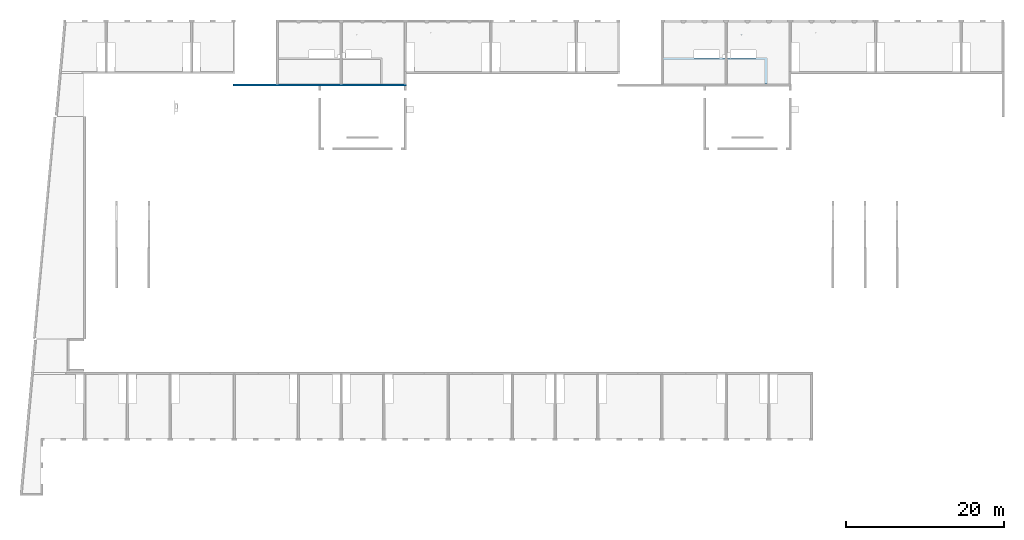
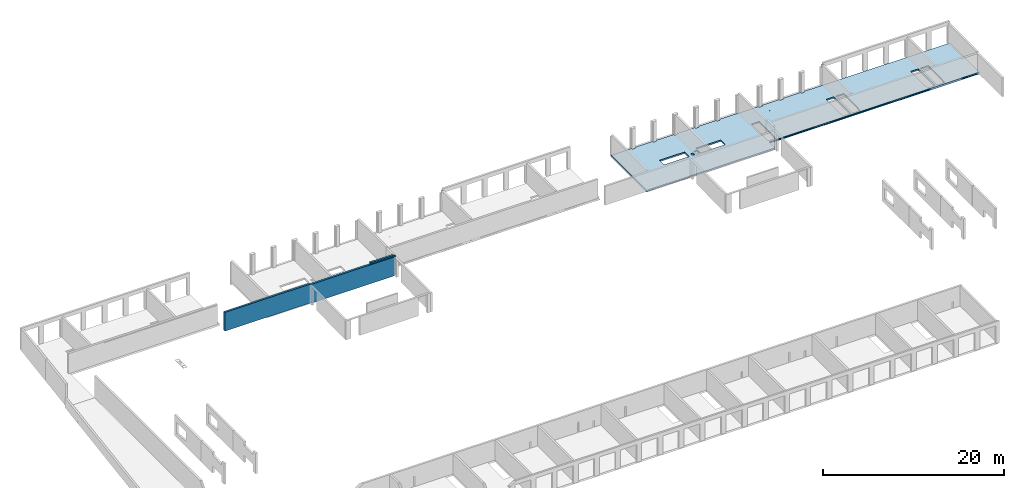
# One storey, part 11 of 12: 1 slab, 1 wall.
"""IFC2X3 building model written with IfcOpenShell, lengths in millimetres."""

from ifc_helpers import new_model, entity, si_unit, converted_unit, derived_unit, direction, frame, origin, place, context, subcontext, project, spatial, faceted_brep, material, layer, layer_set, type_object, element, save


model = new_model("IFC2X3")

# Units and contexts
model_context = context("Model", 3, precision=0.01, world=origin(), true_north=direction((6.12303176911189e-17, 1.0)))
body_context = subcontext(model_context, "Body", "Model", "MODEL_VIEW")
ifc_project = project(units=[si_unit("LENGTHUNIT", "METRE", prefix="MILLI"), si_unit("AREAUNIT", "SQUARE_METRE"), si_unit("VOLUMEUNIT", "CUBIC_METRE"), converted_unit("PLANEANGLEUNIT", "DEGREE", entity("IfcRatioMeasure", 0.0174532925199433), si_unit("PLANEANGLEUNIT", "RADIAN"), dimensions=[0, 0, 0, 0, 0, 0, 0]), si_unit("MASSUNIT", "GRAM", prefix="KILO"), derived_unit("MASSDENSITYUNIT", [(si_unit("MASSUNIT", "GRAM", prefix="KILO"), 1), (si_unit("LENGTHUNIT", "METRE"), -3)]), si_unit("TIMEUNIT", "SECOND"), si_unit("FREQUENCYUNIT", "HERTZ"), si_unit("THERMODYNAMICTEMPERATUREUNIT", "DEGREE_CELSIUS"), derived_unit("THERMALTRANSMITTANCEUNIT", [(si_unit("MASSUNIT", "GRAM", prefix="KILO"), 1), (si_unit("THERMODYNAMICTEMPERATUREUNIT", "KELVIN"), -1), (si_unit("TIMEUNIT", "SECOND"), -3)]), derived_unit("VOLUMETRICFLOWRATEUNIT", [(si_unit("LENGTHUNIT", "METRE"), 3), (si_unit("TIMEUNIT", "SECOND"), -1)]), si_unit("ELECTRICCURRENTUNIT", "AMPERE"), si_unit("ELECTRICVOLTAGEUNIT", "VOLT"), si_unit("POWERUNIT", "WATT"), si_unit("FORCEUNIT", "NEWTON", prefix="KILO"), si_unit("ILLUMINANCEUNIT", "LUX"), si_unit("LUMINOUSFLUXUNIT", "LUMEN"), si_unit("LUMINOUSINTENSITYUNIT", "CANDELA"), derived_unit("USERDEFINED", [(si_unit("MASSUNIT", "GRAM", prefix="KILO"), -1), (si_unit("LENGTHUNIT", "METRE"), -2), (si_unit("TIMEUNIT", "SECOND"), 3), (si_unit("LUMINOUSFLUXUNIT", "LUMEN"), 1)]), derived_unit("LINEARVELOCITYUNIT", [(si_unit("LENGTHUNIT", "METRE"), 1), (si_unit("TIMEUNIT", "SECOND"), -1)]), si_unit("PRESSUREUNIT", "PASCAL"), derived_unit("USERDEFINED", [(si_unit("LENGTHUNIT", "METRE"), -2), (si_unit("MASSUNIT", "GRAM", prefix="KILO"), 1), (si_unit("TIMEUNIT", "SECOND"), -2)])], contexts=[model_context])

# Site, building, storey
site_placement = place(None, origin())
site = spatial("IfcSite", under=ifc_project, at=site_placement, Name="Default", CompositionType="ELEMENT")
building_placement = place(site_placement, origin())
building = spatial("IfcBuilding", under=site, at=building_placement, Name="niet gebruiken", CompositionType="ELEMENT")
storey_placement = place(building_placement, frame((0.0, 0.0, 6660.0)))
storey = spatial("IfcBuildingStorey", under=building, at=storey_placement, Name="02 tweede verdieping", CompositionType="ELEMENT", Elevation=6660.00000000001)

# Slab
slab_placement = place(storey_placement, origin())
element("IfcSlab", 1, at=slab_placement, inside=storey, Name="Floor:NLRS_23.21_FL_breedplaat d=70/250_schil apart_gen", ObjectType="Floor:NLRS_23.21_FL_breedplaat d=70/250_schil apart_gen", PredefinedType="FLOOR", context=body_context, shape_type="Brep", body=[
    faceted_brep([(89205.0, 52846.0, -340.0), (89205.0, 48826.0, -340.0), (89225.0, 48826.0, -340.0), (89225.0, 48476.0, -340.0), (89575.0, 48476.0, -340.0), (89575.0, 48456.0, -340.0), (89675.0, 48456.0, -340.0), (89675.0, 48476.0, -340.0), (92875.0, 48476.0, -340.0), (92875.0, 48456.0, -340.0), (94255.0, 48456.0, -340.0), (94255.0, 45156.0, -340.0), (94045.0, 45156.0, -340.0), (94045.0, 48246.0, -340.0), (81130.0, 48246.0, -340.0), (81130.0, 45156.0, -340.0), (80900.0, 45156.0, -340.0), (80900.0, 53006.0, -340.0), (81130.0, 53006.0, -340.0), (81130.0, 48456.0, -340.0), (85055.0, 48456.0, -340.0), (85055.0, 48476.0, -340.0), (88255.0, 48476.0, -340.0), (88255.0, 48456.0, -340.0), (88625.0, 48456.0, -340.0), (88625.0, 48476.0, -340.0), (88975.0, 48476.0, -340.0), (88975.0, 48826.0, -340.0), (88995.0, 48826.0, -340.0), (88995.0, 52846.0, -340.0), (124200.0, 53006.0, -340.0), (123970.0, 52986.0, -340.0), (118905.0, 52986.0, -340.0), (118695.0, 52986.0, -340.0), (107980.0, 53006.0, -340.0), (123970.0, 46726.0, -340.0), (124200.0, 46496.0, -340.0), (123950.0, 46496.0, -340.0), (119925.0, 46726.0, -340.0), (117675.0, 46726.0, -340.0), (109125.0, 46726.0, -340.0), (97325.0, 46496.0, -340.0), (106875.0, 46726.0, -340.0), (98325.0, 46726.0, -340.0), (98295.0, 46746.0, -340.0), (97325.0, 46746.0, -340.0), (97095.0, 45156.0, -340.0), (97325.0, 45156.0, -340.0), (97305.0, 50426.0, -340.0), (97095.0, 53006.0, -340.0), (97200.0, 53006.0, -340.0), (97305.0, 53006.0, -340.0), (97325.0, 50426.0, -340.0), (98325.0, 47326.0, -340.0), (98295.0, 47326.0, -340.0), (107875.0, 46746.0, -340.0), (106905.0, 46746.0, -340.0), (106875.0, 47326.0, -340.0), (106905.0, 47326.0, -340.0), (108125.0, 46746.0, -340.0), (108125.0, 47146.0, -340.0), (108125.0, 47326.0, -340.0), (107875.0, 50426.0, -340.0), (107895.0, 50426.0, -340.0), (108105.0, 50426.0, -340.0), (108105.0, 52986.0, -340.0), (107895.0, 53006.0, -340.0), (108125.0, 50426.0, -340.0), (109095.0, 46746.0, -340.0), (109095.0, 47146.0, -340.0), (109125.0, 47326.0, -340.0), (109095.0, 47326.0, -340.0), (118675.0, 46746.0, -340.0), (117705.0, 46746.0, -340.0), (117675.0, 47326.0, -340.0), (117705.0, 47326.0, -340.0), (118925.0, 46746.0, -340.0), (118905.0, 50426.0, -340.0), (118695.0, 50426.0, -340.0), (118675.0, 50426.0, -340.0), (118925.0, 50426.0, -340.0), (119895.0, 46746.0, -340.0), (119925.0, 47326.0, -340.0), (119895.0, 47326.0, -340.0), (117860.0, 46516.0, -300.0), (97305.0, 46516.0, -300.0), (97305.0, 46056.0, -300.0), (97325.0, 46056.0, -300.0), (97325.0, 46496.0, -300.0), (117860.0, 46496.0, -300.0), (123970.0, 46496.0, -300.0), (123970.0, 46516.0, -300.0), (121950.0, 46516.0, -300.0), (121950.0, 46496.0, -300.0), (97325.0, 46496.0, -230.0), (97325.0, 46056.0, -230.0), (97305.0, 46056.0, -230.0), (97305.0, 46516.0, -230.0), (117860.0, 46516.0, -230.0), (117860.0, 46496.0, -230.0), (123970.0, 46516.0, -230.0), (123970.0, 46496.0, -230.0), (121950.0, 46496.0, -230.0), (121950.0, 46516.0, -230.0), (124200.0, 46496.0, -90.0), (124200.0, 46746.0, -90.0), (121930.0, 46496.0, -90.0), (119895.0, 46746.0, -90.0), (119925.0, 47326.0, -90.0), (117880.0, 46496.0, -90.0), (118925.0, 46746.0, -90.0), (118675.0, 46746.0, -90.0), (117880.0, 46746.0, -90.0), (117705.0, 46746.0, -90.0), (117675.0, 47326.0, -90.0), (109095.0, 46746.0, -90.0), (108125.0, 46746.0, -90.0), (108125.0, 47146.0, -90.0), (107875.0, 46746.0, -90.0), (97325.0, 46496.0, -90.0), (106905.0, 46746.0, -90.0), (119925.0, 50426.0, -90.0), (118925.0, 50426.0, -90.0), (119895.0, 47326.0, -90.0), (117705.0, 47326.0, -90.0), (109125.0, 47326.0, -90.0), (117675.0, 50426.0, -90.0), (109095.0, 47146.0, -90.0), (118675.0, 50426.0, -90.0), (109095.0, 47326.0, -90.0), (107875.0, 50426.0, -90.0), (108125.0, 47326.0, -90.0), (108125.0, 50426.0, -90.0), (100418.749999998, 51623.5240473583, -90.0), (98325.0, 47326.0, -90.0), (106875.0, 47326.0, -90.0), (106875.0, 50426.0, -90.0), (106905.0, 47326.0, -90.0), (97075.0, 45156.0, -90.0), (97325.0, 46056.0, -90.0), (97325.0, 46746.0, -90.0), (98295.0, 46746.0, -90.0), (92875.0, 48476.0, -90.0), (98295.0, 47326.0, -90.0), (88975.0, 48476.0, -90.0), (80900.0, 45156.0, -90.0), (97325.0, 45156.0, -90.0), (88255.0, 48476.0, -90.0), (88625.0, 48476.0, -90.0), (88625.0, 48826.0, -90.0), (85055.0, 48476.0, -90.0), (89225.0, 48476.0, -90.0), (85055.0, 49476.0, -90.0), (89575.0, 49083.0, -90.0), (89675.0, 48476.0, -90.0), (89675.0, 49476.0, -90.0), (89575.0, 48476.0, -90.0), (97325.0, 50426.0, -90.0), (92875.0, 49476.0, -90.0), (97200.0, 53006.0, -90.0), (98325.0, 50426.0, -90.0), (91068.7499999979, 51373.5240473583, -90.0), (88895.0, 52846.0, -90.0), (88255.0, 49476.0, -90.0), (89225.0, 49083.0, -90.0), (88975.0, 48826.0, -90.0), (86605.0, 52846.0, -90.0), (94705.0, 52846.0, -90.0), (80900.0, 53006.0, -90.0), (107980.0, 53006.0, -90.0), (109125.0, 50426.0, -90.0), (102805.0, 52846.0, -90.0), (124200.0, 53006.0, -90.0), (102395.0, 52846.0, -90.0), (100437.499999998, 51656.0, -90.0), (100433.787806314, 51649.570291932, -90.0), (100409.374999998, 51623.5240473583, -90.0), (100105.0, 52846.0, -90.0), (100381.249999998, 51688.4759526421, -90.0), (100390.624999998, 51688.4759526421, -90.0), (100418.749999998, 51688.4759526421, -90.0), (100423.437499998, 51680.3569644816, -90.0), (99695.0, 52846.0, -90.0), (100362.499999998, 51656.0, -90.0), (100366.212193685, 51662.4297080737, -90.0), (100381.249999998, 51623.5240473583, -90.0), (100376.562499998, 51631.6430355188, -90.0), (102805.0, 53006.0, -90.0), (105095.0, 52846.0, -90.0), (105095.0, 53006.0, -90.0), (105505.0, 52846.0, -90.0), (105505.0, 53006.0, -90.0), (102395.0, 53006.0, -90.0), (100105.0, 53006.0, -90.0), (99695.0, 53006.0, -90.0), (91087.4999999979, 51406.0, -90.0), (91083.7878063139, 51399.5702919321, -90.0), (94295.0, 52846.0, -90.0), (92005.0, 52846.0, -90.0), (91068.7499999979, 51438.4759526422, -90.0), (91073.4374999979, 51430.3569644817, -90.0), (94295.0, 53006.0, -90.0), (91595.0, 52846.0, -90.0), (89305.0, 52846.0, -90.0), (91012.4999999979, 51406.0, -90.0), (91031.2499999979, 51438.4759526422, -90.0), (91040.6249999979, 51438.4759526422, -90.0), (88895.0, 53006.0, -90.0), (91016.2121936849, 51412.4297080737, -90.0), (86195.0, 52846.0, -90.0), (91595.0, 53006.0, -90.0), (91059.3749999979, 51373.5240473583, -90.0), (92005.0, 53006.0, -90.0), (86605.0, 53006.0, -90.0), (89305.0, 53006.0, -90.0), (83495.0, 52846.0, -90.0), (83905.0, 52846.0, -90.0), (86195.0, 53006.0, -90.0), (83495.0, 53006.0, -90.0), (83905.0, 53006.0, -90.0), (94705.0, 53006.0, -90.0), (91031.2499999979, 51373.5240473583, -90.0), (91026.5624999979, 51381.6430355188, -90.0), (100428.124999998, 51639.7620236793, -90.0), (100423.437499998, 51631.6430355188, -90.0), (100400.0, 51623.5240473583, -90.0), (100390.624999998, 51623.5240473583, -90.0), (100400.0, 51688.4759526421, -90.0), (100409.374999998, 51688.4759526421, -90.0), (100428.124999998, 51672.2379763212, -90.0), (100432.812499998, 51664.1189881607, -90.0), (100369.924387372, 51668.8594161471, -90.0), (100375.587193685, 51678.6676843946, -90.0), (100371.874999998, 51639.7620236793, -90.0), (100367.187499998, 51647.8810118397, -90.0), (91078.1249999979, 51389.7620236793, -90.0), (91073.4374999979, 51381.6430355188, -90.0), (91078.1249999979, 51422.2379763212, -90.0), (91082.8124999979, 51414.1189881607, -90.0), (91050.0, 51438.4759526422, -90.0), (91059.3749999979, 51438.4759526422, -90.0), (91019.9243873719, 51418.8594161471, -90.0), (91025.5871936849, 51428.6676843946, -90.0), (91050.0, 51373.5240473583, -90.0), (91040.6249999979, 51373.5240473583, -90.0), (91021.8749999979, 51389.7620236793, -90.0), (91017.1874999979, 51397.8810118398, -90.0), (97325.0, 45156.0, -300.0), (97325.0, 45156.0, -230.0), (97325.0, 45156.0, -140.0), (81130.0, 45156.0, -300.0), (81130.0, 45156.0, -270.0), (86525.0, 45156.0, -270.0), (94045.0, 45156.0, -270.0), (94255.0, 45156.0, -270.0), (97095.0, 45156.0, -270.0), (81130.0, 53006.0, -270.0), (83495.0, 53006.0, -270.0), (86195.0, 53006.0, -270.0), (83905.0, 53006.0, -270.0), (88895.0, 53006.0, -270.0), (86605.0, 53006.0, -270.0), (91595.0, 53006.0, -270.0), (89305.0, 53006.0, -270.0), (94295.0, 53006.0, -270.0), (92005.0, 53006.0, -270.0), (97095.0, 53006.0, -270.0), (94705.0, 53006.0, -270.0), (99695.0, 53006.0, -270.0), (97305.0, 53006.0, -270.0), (102395.0, 53006.0, -270.0), (100105.0, 53006.0, -270.0), (105095.0, 53006.0, -270.0), (102805.0, 53006.0, -270.0), (107895.0, 53006.0, -270.0), (105505.0, 53006.0, -270.0), (97325.0, 50426.0, -270.0), (83495.0, 52846.0, -270.0), (83905.0, 52846.0, -270.0), (86605.0, 52846.0, -270.0), (86195.0, 52846.0, -270.0), (89205.0, 52846.0, -270.0), (88995.0, 52846.0, -270.0), (88895.0, 52846.0, -270.0), (89305.0, 52846.0, -270.0), (92005.0, 52846.0, -270.0), (91595.0, 52846.0, -270.0), (94705.0, 52846.0, -270.0), (94295.0, 52846.0, -270.0), (100105.0, 52846.0, -270.0), (99695.0, 52846.0, -270.0), (102805.0, 52846.0, -270.0), (102395.0, 52846.0, -270.0), (105505.0, 52846.0, -270.0), (105095.0, 52846.0, -270.0), (124200.0, 46496.0, -300.0), (85055.0, 49476.0, -270.0), (88255.0, 49476.0, -270.0), (89675.0, 49476.0, -270.0), (92875.0, 49476.0, -270.0), (88255.0, 48476.0, -270.0), (85055.0, 48476.0, -270.0), (92875.0, 48476.0, -270.0), (89675.0, 48476.0, -270.0), (88625.0, 48476.0, -270.0), (89575.0, 48476.0, -270.0), (107875.0, 50426.0, -270.0), (108125.0, 50426.0, -270.0), (118675.0, 50426.0, -270.0), (118925.0, 50426.0, -270.0), (98325.0, 50426.0, -270.0), (109125.0, 50426.0, -270.0), (106875.0, 50426.0, -270.0), (119925.0, 50426.0, -270.0), (117675.0, 50426.0, -270.0), (98325.0, 47326.0, -270.0), (109125.0, 47326.0, -270.0), (106875.0, 47326.0, -270.0), (119925.0, 47326.0, -270.0), (117675.0, 47326.0, -270.0), (88975.0, 48826.0, -270.0), (88625.0, 48826.0, -270.0), (100418.749999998, 51623.5240473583, -270.0), (100423.437499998, 51631.6430355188, -270.0), (100409.374999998, 51623.5240473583, -270.0), (100428.124999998, 51639.7620236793, -270.0), (100432.812499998, 51647.8810118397, -270.0), (100437.499999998, 51656.0, -270.0), (100433.787806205, 51662.4297082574, -270.0), (100430.075612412, 51668.8594165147, -270.0), (100424.412806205, 51678.6676845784, -270.0), (100418.749999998, 51688.4759526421, -270.0), (100409.374999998, 51688.4759526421, -270.0), (100400.0, 51688.4759526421, -270.0), (100390.624999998, 51688.4759526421, -270.0), (100381.249999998, 51688.4759526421, -270.0), (100376.562499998, 51680.3569644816, -270.0), (100371.874999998, 51672.2379763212, -270.0), (100367.187499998, 51664.1189881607, -270.0), (100362.499999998, 51656.0, -270.0), (100366.212193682, 51649.5702919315, -270.0), (100369.924387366, 51643.1405838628, -270.0), (100375.587193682, 51633.3323156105, -270.0), (100381.249999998, 51623.5240473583, -270.0), (100390.624999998, 51623.5240473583, -270.0), (100400.0, 51623.5240473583, -270.0), (97305.0, 50426.0, -270.0), (107895.0, 50426.0, -270.0), (98325.0, 46726.0, -270.0), (106875.0, 46726.0, -270.0), (108105.0, 50426.0, -270.0), (108105.0, 52986.0, -270.0), (118695.0, 52986.0, -270.0), (118695.0, 50426.0, -270.0), (117675.0, 46726.0, -270.0), (109125.0, 46726.0, -270.0), (118905.0, 50426.0, -270.0), (118905.0, 52986.0, -270.0), (123970.0, 52986.0, -270.0), (123970.0, 46726.0, -270.0), (119925.0, 46726.0, -270.0), (94255.0, 48456.0, -270.0), (92875.0, 48456.0, -270.0), (91087.4999999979, 51406.0, -270.0), (91082.8124999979, 51397.8810118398, -270.0), (91078.1249999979, 51389.7620236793, -270.0), (91073.4374999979, 51381.6430355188, -270.0), (91068.7499999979, 51373.5240473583, -270.0), (91059.3749999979, 51373.5240473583, -270.0), (91050.0, 51373.5240473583, -270.0), (91040.6249999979, 51373.5240473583, -270.0), (91031.2499999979, 51373.5240473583, -270.0), (91025.5871936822, 51383.3323156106, -270.0), (91019.9243873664, 51393.1405838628, -270.0), (91016.2121936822, 51399.5702919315, -270.0), (91012.4999999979, 51406.0, -270.0), (89225.0, 49083.0, -270.0), (89575.0, 49083.0, -270.0), (89675.0, 48456.0, -270.0), (89575.0, 48456.0, -270.0), (89205.0, 48826.0, -270.0), (89225.0, 48826.0, -270.0), (91017.1874999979, 51414.1189881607, -270.0), (91021.8749999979, 51422.2379763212, -270.0), (91026.5624999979, 51430.3569644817, -270.0), (91031.2499999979, 51438.4759526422, -270.0), (91068.7499999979, 51438.4759526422, -270.0), (91059.3749999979, 51438.4759526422, -270.0), (91050.0, 51438.4759526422, -270.0), (91040.6249999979, 51438.4759526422, -270.0), (91083.7878062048, 51412.4297082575, -270.0), (91080.0756124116, 51418.8594165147, -270.0), (91074.4128062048, 51428.6676845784, -270.0), (81130.0, 48246.0, -270.0), (94045.0, 48246.0, -270.0), (88255.0, 48456.0, -270.0), (85055.0, 48456.0, -270.0), (81130.0, 48456.0, -270.0), (88995.0, 48826.0, -270.0), (88625.0, 48456.0, -270.0)], [[[0, 1, 2, 3, 4, 5, 6, 7, 8, 9, 10, 11, 12, 13, 14, 15, 16, 17, 18, 19, 20, 21, 22, 23, 24, 25, 26, 27, 28, 29]], [[0, 1, 29]], [[29, 1, 28]], [[28, 1, 26]], [[1, 3, 26]], [[2, 3, 1]], [[26, 3, 5]], [[5, 3, 4]], [[26, 5, 24]], [[13, 24, 5]], [[13, 5, 6]], [[9, 13, 6]], [[8, 9, 6]], [[7, 8, 6]], [[13, 9, 10]], [[10, 11, 13]], [[12, 13, 11]], [[24, 13, 23]], [[23, 13, 14]], [[23, 14, 20]], [[14, 19, 20]], [[19, 14, 16]], [[15, 16, 14]], [[19, 16, 17]], [[18, 19, 17]], [[22, 23, 20]], [[20, 21, 22]], [[24, 25, 26]], [[27, 28, 26]], [[30, 31, 32]], [[32, 33, 30]], [[30, 33, 34]], [[31, 30, 35]], [[36, 35, 30]], [[35, 36, 37]], [[35, 37, 38]], [[39, 38, 37]], [[40, 39, 37]], [[40, 37, 41]], [[41, 42, 40]], [[42, 41, 43]], [[44, 43, 41]], [[41, 45, 44]], [[45, 41, 46]], [[47, 46, 41]], [[45, 46, 48]], [[49, 48, 46]], [[49, 50, 48]], [[51, 48, 50]], [[45, 48, 52]], [[53, 43, 44]], [[44, 54, 53]], [[40, 42, 55]], [[56, 55, 42]], [[57, 56, 42]], [[56, 57, 58]], [[40, 55, 59]], [[60, 59, 55]], [[60, 55, 61]], [[61, 55, 62]], [[63, 61, 62]], [[63, 64, 61]], [[64, 63, 65]], [[65, 63, 66]], [[66, 34, 65]], [[65, 34, 33]], [[67, 61, 64]], [[68, 40, 59]], [[69, 40, 68]], [[70, 40, 69]], [[70, 69, 71]], [[39, 72, 38]], [[73, 72, 39]], [[39, 74, 73]], [[74, 75, 73]], [[76, 38, 72]], [[76, 72, 77]], [[78, 77, 72]], [[72, 79, 78]], [[33, 77, 78]], [[32, 77, 33]], [[77, 80, 76]], [[76, 81, 38]], [[82, 38, 81]], [[81, 83, 82]], [[84, 85, 86, 87, 88, 89]], [[90, 91, 92, 93]], [[94, 95, 96, 97, 98, 99]], [[100, 101, 102, 103]], [[104, 105, 106]], [[107, 106, 108]], [[109, 107, 110]], [[106, 107, 109]], [[109, 110, 111]], [[109, 112, 113]], [[112, 109, 111]], [[114, 115, 113]], [[109, 113, 115]], [[116, 109, 115]], [[117, 118, 116]], [[118, 119, 109]], [[118, 109, 116]], [[118, 120, 119]], [[121, 108, 106]], [[110, 122, 111]], [[123, 107, 108]], [[124, 114, 113]], [[125, 114, 126]], [[125, 127, 115]], [[125, 115, 114]], [[122, 128, 111]], [[127, 125, 129]], [[130, 131, 132]], [[130, 118, 131]], [[133, 134, 135]], [[133, 135, 136]], [[135, 120, 137]], [[118, 117, 131]], [[121, 106, 105]], [[120, 135, 134]], [[138, 139, 119]], [[140, 119, 141]], [[119, 142, 138]], [[141, 134, 143]], [[134, 141, 120]], [[142, 119, 140]], [[144, 145, 138]], [[138, 146, 139]], [[147, 148, 149]], [[144, 148, 145]], [[147, 150, 145]], [[148, 147, 145]], [[138, 151, 144]], [[145, 150, 152]], [[119, 120, 141]], [[153, 154, 155]], [[142, 154, 138]], [[154, 153, 156]], [[157, 158, 142]], [[159, 157, 160]], [[161, 155, 158]], [[155, 162, 163]], [[142, 140, 157]], [[153, 155, 164]], [[156, 151, 138]], [[163, 147, 149]], [[164, 163, 149]], [[164, 165, 151]], [[166, 152, 163]], [[164, 155, 163]], [[149, 165, 164]], [[144, 151, 165]], [[157, 167, 158]], [[154, 156, 138]], [[160, 134, 133]], [[145, 152, 168]], [[136, 130, 169]], [[125, 126, 170]], [[169, 132, 170]], [[133, 136, 171]], [[172, 128, 122]], [[172, 126, 128]], [[169, 170, 126]], [[173, 174, 175]], [[160, 133, 176]], [[177, 178, 179]], [[173, 180, 181]], [[182, 183, 184]], [[180, 173, 177]], [[173, 133, 171]], [[182, 160, 183]], [[122, 121, 172]], [[160, 185, 186]], [[187, 188, 189]], [[188, 136, 190]], [[188, 187, 171]], [[191, 190, 169]], [[136, 169, 190]], [[126, 172, 169]], [[177, 173, 192]], [[177, 182, 178]], [[192, 193, 177]], [[159, 182, 194]], [[159, 160, 182]], [[171, 136, 188]], [[121, 105, 172]], [[159, 167, 157]], [[158, 195, 196]], [[158, 167, 197]], [[197, 198, 158]], [[198, 199, 200]], [[198, 197, 201]], [[195, 158, 198]], [[202, 199, 198]], [[203, 155, 204]], [[162, 155, 203]], [[202, 205, 206]], [[163, 162, 166]], [[166, 162, 207]], [[203, 204, 208]], [[202, 203, 205]], [[166, 209, 152]], [[202, 210, 203]], [[155, 161, 211]], [[201, 212, 198]], [[213, 166, 207]], [[203, 210, 214]], [[215, 152, 216]], [[216, 209, 217]], [[152, 209, 216]], [[168, 215, 218]], [[216, 217, 219]], [[168, 152, 215]], [[167, 159, 220]], [[155, 221, 222]], [[169, 130, 132]], [[173, 175, 223]], [[173, 223, 224]], [[173, 224, 133]], [[160, 176, 225]], [[160, 225, 226]], [[160, 226, 185]], [[177, 179, 227]], [[177, 227, 228]], [[177, 228, 180]], [[173, 181, 229]], [[173, 229, 230]], [[173, 230, 174]], [[182, 184, 231]], [[182, 231, 232]], [[182, 232, 178]], [[160, 186, 233]], [[160, 233, 234]], [[160, 234, 183]], [[158, 196, 235]], [[158, 235, 236]], [[158, 236, 161]], [[198, 200, 237]], [[198, 237, 238]], [[198, 238, 195]], [[202, 206, 239]], [[202, 239, 240]], [[202, 240, 199]], [[203, 208, 241]], [[203, 241, 242]], [[203, 242, 205]], [[155, 211, 243]], [[155, 243, 244]], [[155, 244, 221]], [[155, 222, 245]], [[155, 245, 246]], [[155, 246, 204]], [[46, 47, 247, 248, 249, 146, 138, 145, 16, 15, 250, 251, 252, 253, 12, 11, 254, 255]], [[17, 16, 145, 168]], [[256, 18, 17, 168, 218, 257]], [[258, 259, 219, 217]], [[260, 261, 213, 207]], [[262, 263, 214, 210]], [[264, 265, 212, 201]], [[266, 267, 220, 159, 194, 268, 269, 51, 50, 49]], [[270, 271, 193, 192]], [[272, 273, 187, 189]], [[34, 66, 274, 275, 191, 169, 172, 30]], [[41, 88, 87, 95, 94, 119, 139, 146, 249, 248, 247, 47]], [[157, 140, 45, 52, 276]], [[277, 257, 218, 215]], [[278, 277, 215, 216]], [[279, 280, 209, 166]], [[281, 0, 29, 282, 283, 162, 203, 284]], [[285, 286, 202, 198]], [[287, 288, 197, 167]], [[289, 290, 182, 177]], [[291, 292, 173, 171]], [[293, 294, 188, 190]], [[259, 278, 216, 219]], [[280, 258, 217, 209]], [[261, 279, 166, 213]], [[283, 260, 207, 162]], [[263, 284, 203, 214]], [[286, 262, 210, 202]], [[265, 285, 198, 212]], [[288, 264, 201, 197]], [[267, 287, 167, 220]], [[290, 268, 194, 182]], [[271, 289, 177, 193]], [[292, 270, 192, 173]], [[273, 291, 171, 187]], [[294, 272, 189, 188]], [[275, 293, 190, 191]], [[295, 36, 30, 172, 105, 104]], [[37, 36, 90]], [[37, 90, 93]], [[37, 93, 89]], [[89, 41, 37]], [[295, 90, 36]], [[90, 295, 101]], [[101, 295, 104]], [[104, 106, 101]], [[102, 106, 93]], [[102, 101, 106]], [[106, 109, 93]], [[109, 89, 93]], [[89, 109, 99]], [[109, 119, 99]], [[94, 99, 119]], [[88, 41, 89]], [[163, 152, 296, 297]], [[158, 155, 298, 299]], [[147, 163, 297, 300]], [[150, 147, 300, 22, 21, 301]], [[154, 142, 302, 8, 7, 303]], [[304, 148, 144, 26, 25]], [[151, 156, 305, 4, 3]], [[152, 150, 301, 296]], [[142, 158, 299, 302]], [[155, 154, 303, 298]], [[118, 130, 306, 62, 55]], [[120, 118, 55, 56]], [[140, 141, 44, 45]], [[116, 115, 68, 59]], [[112, 111, 72, 73, 113]], [[110, 107, 81, 76]], [[137, 120, 56, 58]], [[141, 143, 54, 44]], [[127, 129, 71, 69, 68, 115]], [[131, 117, 116, 59, 60, 61, 67, 307, 132]], [[111, 128, 308, 79, 72]], [[124, 113, 73, 75]], [[107, 123, 83, 81]], [[122, 110, 76, 80, 309]], [[276, 310, 160, 157]], [[307, 311, 170, 132]], [[312, 306, 130, 136]], [[309, 313, 121, 122]], [[314, 308, 128, 126]], [[315, 53, 54, 143, 134]], [[316, 70, 71, 129, 125]], [[317, 135, 137, 58, 57]], [[318, 82, 83, 123, 108]], [[319, 114, 124, 75, 74]], [[310, 315, 134, 160]], [[311, 316, 125, 170]], [[312, 136, 135, 317]], [[313, 318, 108, 121]], [[314, 126, 114, 319]], [[320, 165, 149, 321]], [[321, 149, 148, 304]], [[320, 27, 26, 144, 165]], [[322, 312, 317]], [[291, 312, 322]], [[322, 317, 315]], [[310, 322, 315]], [[291, 322, 292]], [[292, 322, 323]], [[310, 324, 322]], [[292, 323, 325]], [[292, 325, 326]], [[292, 326, 327]], [[292, 327, 328]], [[292, 328, 329]], [[292, 329, 330]], [[292, 330, 331]], [[289, 292, 331]], [[289, 331, 332]], [[289, 332, 333]], [[289, 333, 334]], [[289, 334, 335]], [[335, 290, 289]], [[290, 335, 336]], [[290, 336, 337]], [[290, 337, 338]], [[290, 338, 339]], [[290, 339, 310]], [[310, 339, 340]], [[310, 340, 341]], [[310, 341, 342]], [[310, 342, 343]], [[310, 343, 344]], [[310, 344, 345]], [[310, 345, 324]], [[310, 269, 290]], [[269, 310, 276]], [[276, 346, 269]], [[268, 290, 269]], [[270, 292, 289]], [[289, 271, 270]], [[294, 312, 291]], [[294, 291, 273]], [[294, 273, 272]], [[294, 293, 312]], [[274, 312, 293]], [[274, 293, 275]], [[306, 312, 274]], [[274, 347, 306]], [[315, 317, 348]], [[317, 349, 348]], [[316, 311, 307, 350, 351, 352, 353, 308, 314, 319, 354, 355]], [[318, 313, 309, 356, 357, 358, 359, 360]], [[322, 312, 317]], [[291, 312, 322]], [[322, 317, 315]], [[310, 322, 315]], [[291, 322, 292]], [[292, 322, 323]], [[310, 324, 322]], [[292, 323, 325]], [[292, 325, 326]], [[292, 326, 327]], [[292, 327, 328]], [[292, 328, 329]], [[292, 329, 330]], [[292, 330, 331]], [[289, 292, 331]], [[289, 331, 332]], [[289, 332, 333]], [[289, 333, 334]], [[289, 334, 335]], [[335, 290, 289]], [[290, 335, 336]], [[290, 336, 337]], [[290, 337, 338]], [[290, 338, 339]], [[290, 339, 310]], [[310, 339, 340]], [[310, 340, 341]], [[310, 341, 342]], [[310, 342, 343]], [[310, 343, 344]], [[310, 344, 345]], [[310, 345, 324]], [[310, 269, 290]], [[269, 310, 276]], [[276, 346, 269]], [[268, 290, 269]], [[270, 292, 289]], [[289, 271, 270]], [[294, 312, 291]], [[294, 291, 273]], [[294, 273, 272]], [[294, 293, 312]], [[274, 312, 293]], [[274, 293, 275]], [[306, 312, 274]], [[274, 347, 306]], [[315, 317, 348]], [[317, 349, 348]], [[316, 314, 319]], [[319, 355, 316]], [[314, 316, 311]], [[311, 351, 314]], [[351, 311, 307]], [[350, 351, 307]], [[314, 351, 352]], [[352, 308, 314]], [[352, 353, 308]], [[355, 319, 354]], [[318, 313, 359]], [[359, 360, 318]], [[358, 359, 313]], [[358, 313, 357]], [[309, 357, 313]], [[309, 356, 357]], [[287, 267, 266]], [[361, 287, 266]], [[361, 299, 287]], [[299, 288, 287]], [[266, 255, 361]], [[361, 255, 254]], [[361, 302, 299]], [[361, 362, 302]], [[285, 288, 299]], [[299, 363, 285]], [[299, 364, 363]], [[299, 365, 364]], [[299, 366, 365]], [[299, 367, 366]], [[298, 367, 299]], [[298, 368, 367]], [[298, 369, 368]], [[298, 370, 369]], [[298, 371, 370]], [[298, 372, 371]], [[298, 373, 372]], [[298, 374, 373]], [[298, 375, 374]], [[284, 375, 298]], [[284, 298, 281]], [[376, 281, 298]], [[376, 298, 377]], [[303, 377, 298]], [[305, 377, 303]], [[303, 378, 305]], [[378, 379, 305]], [[380, 281, 376]], [[380, 376, 381]], [[284, 382, 375]], [[284, 383, 382]], [[284, 384, 383]], [[284, 385, 384]], [[284, 286, 385]], [[284, 262, 286]], [[262, 284, 263]], [[386, 286, 285]], [[286, 386, 387]], [[286, 387, 388]], [[286, 388, 389]], [[286, 389, 385]], [[285, 363, 390]], [[285, 390, 391]], [[285, 391, 392]], [[285, 392, 386]], [[285, 264, 288]], [[264, 285, 265]], [[252, 251, 393, 394, 253]], [[395, 300, 297, 296, 301, 396, 397, 256, 257, 277, 278, 259, 258, 280, 279, 261, 260, 283, 282, 398, 320, 321, 304, 399]], [[269, 346, 48, 51]], [[96, 86, 85, 97]], [[346, 276, 52, 48]], [[347, 63, 62, 306]], [[350, 307, 67, 64]], [[353, 78, 79, 308]], [[356, 309, 80, 77]], [[348, 43, 53, 315]], [[349, 42, 43, 348]], [[354, 39, 40, 355]], [[359, 35, 38, 360]], [[274, 66, 63, 347]], [[317, 57, 42, 349]], [[352, 351, 65, 33]], [[357, 32, 31, 358]], [[350, 64, 65, 351]], [[355, 40, 70, 316]], [[352, 33, 78, 353]], [[319, 74, 39, 354]], [[356, 77, 32, 357]], [[360, 38, 82, 318]], [[358, 31, 35, 359]], [[100, 91, 90, 101]], [[380, 1, 0, 281]], [[381, 2, 1, 380]], [[398, 28, 27, 320]], [[305, 379, 5, 4]], [[378, 6, 5, 379]], [[361, 10, 9, 362]], [[399, 24, 23, 395]], [[396, 20, 19, 397]], [[303, 7, 6, 378]], [[362, 9, 8, 302]], [[255, 266, 49, 46]], [[254, 11, 10, 361]], [[250, 15, 14, 393, 251]], [[256, 397, 19, 18]], [[393, 14, 13, 394]], [[394, 13, 12, 253]], [[282, 29, 28, 398]], [[304, 25, 24, 399]], [[395, 23, 22, 300]], [[301, 21, 20, 396]], [[97, 85, 84, 98]], [[103, 92, 91, 100]], [[95, 87, 86, 96]], [[98, 84, 89, 99]], [[103, 102, 93, 92]], [[342, 341, 340, 339, 183, 234, 233, 186, 185, 343]], [[225, 176, 133, 322, 324, 345, 344, 343, 185, 226]], [[322, 133, 224, 223, 175, 174, 327, 326, 325, 323]], [[230, 229, 181, 180, 331, 330, 329, 328, 327, 174]], [[228, 227, 179, 178, 335, 334, 333, 332, 331, 180]], [[335, 178, 232, 231, 184, 183, 339, 338, 337, 336]], [[372, 373, 374, 375, 204, 246, 245, 222, 221, 371]], [[243, 211, 161, 367, 368, 369, 370, 371, 221, 244]], [[367, 161, 236, 235, 196, 195, 363, 364, 365, 366]], [[238, 237, 200, 199, 386, 392, 391, 390, 363, 195]], [[240, 239, 206, 205, 385, 389, 388, 387, 386, 199]], [[385, 205, 242, 241, 208, 204, 375, 382, 383, 384]], [[153, 164, 376, 377]], [[156, 153, 377, 305]], [[164, 151, 3, 2, 381, 376]]]),
])

# Wall
ifc_material = material(Name="NLRS_f2_beton ihwg")
ifc_layer = layer(ifc_material, 250.0)
ifc_layer_set = layer_set([ifc_layer], Name="Basic Wall:NLRS_22.21_WA_beton ihwg d=250_gen")
wall_type = type_object("IfcWallType", Name="Basic Wall:NLRS_22.21_WA_beton ihwg d=250_gen", PredefinedType="STANDARD", material=ifc_layer_set)
wall_placement = place(storey_placement, frame((48725.0, 45031.0, -140.0), z_axis=(0.0, 0.0, 1.0), x_axis=(-1.0, 0.0, 0.0)))
element("IfcWall", 2, at=wall_placement, inside=storey, type_object=wall_type, Name="Basic Wall:NLRS_22.21_WA_beton ihwg d=250_gen", ObjectType="Basic Wall:NLRS_22.21_WA_beton ihwg d=250_gen", context=body_context, shape_type="Brep", body=[
    faceted_brep([(0.0, -125.0, 90.0), (250.000150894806, -125.0, 90.0), (250.000150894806, -125.0, 50.0), (250.000150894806, -125.0, 0.0), (3250.00015089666, -125.0, 0.0), (7800.00015089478, -125.0, 0.0), (10800.0, -125.0, 0.0), (10800.0, -125.0, 90.0), (21875.0, -125.0, 90.0), (21875.0, -125.0, 2640.0), (21855.0, -125.0, 2640.0), (11050.0001508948, -125.0, 2640.0), (11050.0001508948, -125.0, 2550.0), (7800.00015089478, -125.0, 2550.0), (3250.00015089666, -125.0, 2550.0), (3250.00015089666, -125.0, 2800.0), (250.000150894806, -125.0, 2800.0), (250.000150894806, -125.0, 2640.0), (0.0, -125.0, 2640.0), (250.000150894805, 125.0, 90.0), (0.0, 125.0, 90.0), (0.0, 125.0, 2550.0), (0.0, 125.0, 2640.0), (250.000150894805, 125.0, 2640.0), (250.000150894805, 125.0, 2800.0), (3250.00015089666, 125.0, 2800.0), (3250.00015089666, 125.0, 2620.0), (230.0, 125.0, 2620.0), (230.0, 125.0, 2550.0), (250.0, 125.0, 2550.0), (10800.0, 125.0, 2550.0), (11050.0001508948, 125.0, 2550.0), (11050.0001508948, 125.0, 2640.0), (21875.0, 125.0, 2640.0), (21875.0, 125.0, 90.0), (11050.0, 125.0, 90.0), (10800.0, 125.0, 90.0), (10800.0, 125.0, 0.0), (3250.00015089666, 125.0, 0.0), (250.000150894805, 125.0, 0.0), (11050.0001508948, 105.0, 2640.0), (230.0, 105.0, 2550.0), (3250.00015089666, 105.0, 2550.0), (3250.00015089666, 105.0, 2620.0), (230.0, 105.0, 2620.0)], [[[0, 1, 2, 3, 4, 5, 6, 7, 8, 9, 10, 11, 12, 13, 14, 15, 16, 17, 18]], [[19, 20, 21, 22, 23, 24, 25, 26, 27, 28, 29, 30, 31, 32, 33, 34, 35, 36, 37, 38, 39]], [[34, 8, 7, 36, 35]], [[8, 34, 33, 9]], [[3, 39, 38, 37, 6, 5, 4]], [[15, 25, 24, 16]], [[19, 1, 0, 20]], [[1, 19, 39, 3, 2]], [[9, 33, 32, 40, 11, 10]], [[12, 31, 30, 29, 28, 41, 42, 14, 13]], [[31, 12, 11, 40, 32]], [[36, 7, 6, 37]], [[15, 14, 42, 43, 26, 25]], [[43, 44, 27, 26]], [[42, 41, 44, 43]], [[44, 41, 28, 27]], [[17, 23, 22, 18]], [[23, 17, 16, 24]], [[20, 0, 18, 22, 21]]]),
])

save(model, "model.ifc")
